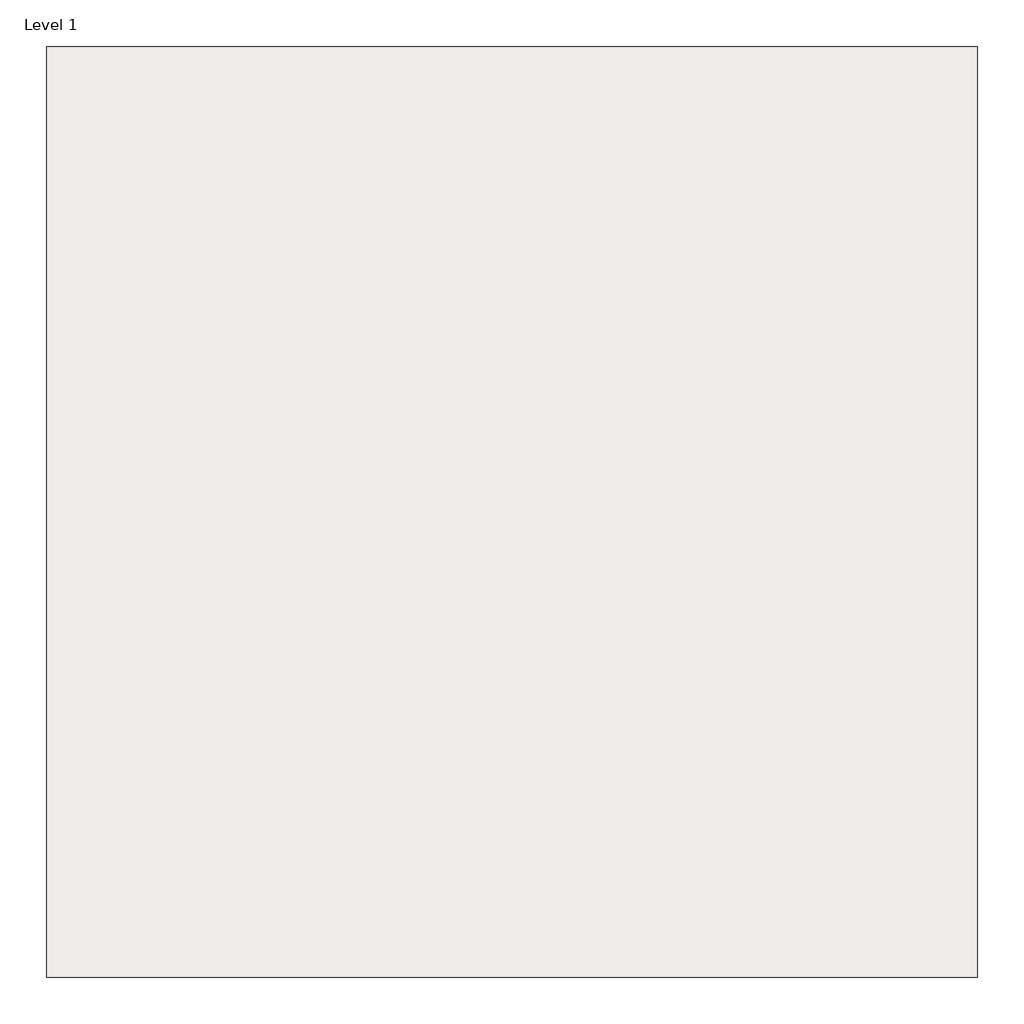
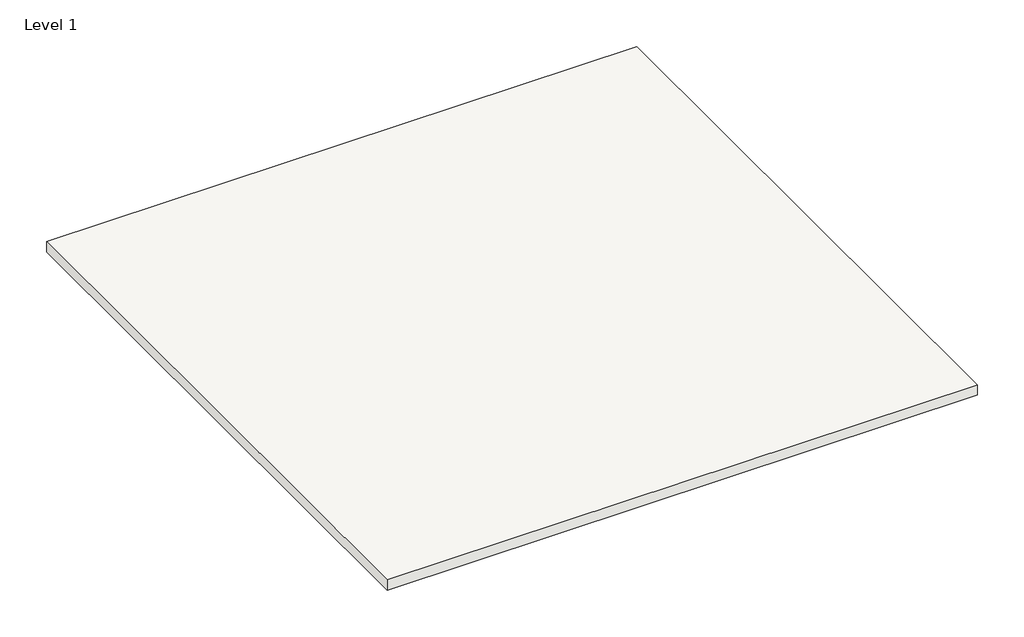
# One storey: 1 covering.
"""IFC4 building model written with IfcOpenShell, lengths in millimetres."""

import ifcopenshell
import ifcopenshell.guid

model = None  # the IFC model being written
_history = None  # IfcOwnerHistory: only IFC2X3 demands one
_inside = {}  # id of a spatial element -> (the spatial element, [elements in it])
_under = {}  # id of a project, library or spatial element -> (it, [spatial elements below it])
_declared = {}  # id of a project -> (the project, [libraries it declares])
_typed = {}  # id of a type object -> (the type object, [elements of that type])
_made_of = {}  # id of a material, layer set ... -> (it, [elements and type objects made of it])


def new_model(schema):
    """Start an empty IFC model of exactly this schema.

    Asked for "IFC4X3", IfcOpenShell would pick the latest addendum, in which some entities
    have other attributes; the version numbers below select the first issue.
    IFC2X3 requires an IfcOwnerHistory on every rooted entity: one is made here for all.
    """
    global model, _history
    if schema == "IFC4X3":
        model = ifcopenshell.file(schema_version=(4, 3, 0, 0))
    else:
        model = ifcopenshell.file(schema=schema)
    _inside.clear()
    _under.clear()
    _declared.clear()
    _typed.clear()
    _made_of.clear()
    _history = None
    if model.schema == "IFC2X3":
        org = make("IfcOrganization", Name="unknown")
        user = make(
            "IfcPersonAndOrganization",
            ThePerson=make("IfcPerson", FamilyName="unknown"),
            TheOrganization=org,
        )
        app = make(
            "IfcApplication",
            ApplicationDeveloper=org,
            Version="unknown",
            ApplicationFullName="unknown",
            ApplicationIdentifier="unknown",
        )
        _history = make(
            "IfcOwnerHistory",
            OwningUser=user,
            OwningApplication=app,
            ChangeAction="ADDED",
            CreationDate=0,
        )
    return model


def make(cls, **values):
    """One entity of the class cls with the attributes given. An attribute that is None is left unset."""
    return model.create_entity(
        cls, **{name: value for name, value in values.items() if value is not None}
    )


def rooted(cls, **values):
    """An entity with a GlobalId (a new one), such as an element, a storey or a relation."""
    return make(cls, GlobalId=ifcopenshell.guid.new(), OwnerHistory=_history, **values)


def si_unit(unit_type, name, prefix=None):
    """IfcSIUnit, for example si_unit("LENGTHUNIT", "METRE", prefix="MILLI")."""
    return make("IfcSIUnit", UnitType=unit_type, Prefix=prefix, Name=name)


def assignment(units):
    """IfcUnitAssignment: the units of a project."""
    return None if units is None else make("IfcUnitAssignment", Units=units)


def point(xyz):
    """IfcCartesianPoint."""
    return None if xyz is None else make("IfcCartesianPoint", Coordinates=xyz)


def direction(xyz):
    """IfcDirection."""
    return None if xyz is None else make("IfcDirection", DirectionRatios=xyz)


def frame(location, z_axis=None, x_axis=None):
    """IfcAxis2Placement3D, a coordinate frame: its origin and axes. An axis left out is left unset."""
    return make(
        "IfcAxis2Placement3D",
        Location=point(location),
        Axis=direction(z_axis),
        RefDirection=direction(x_axis),
    )


def origin():
    """The frame at (0, 0, 0) with its axes left unset."""
    return frame((0.0, 0.0, 0.0))


def origin_with_axes():
    """The frame at (0, 0, 0) with the z axis (0, 0, 1) and the x axis (1, 0, 0) written out."""
    return frame((0.0, 0.0, 0.0), z_axis=(0.0, 0.0, 1.0), x_axis=(1.0, 0.0, 0.0))


def place(relative_to, where):
    """IfcLocalPlacement: puts the frame where relative to a parent placement (None: the world)."""
    return make(
        "IfcLocalPlacement", PlacementRelTo=relative_to, RelativePlacement=where
    )


def context(
    kind, dimensions, precision=None, world=None, true_north=None, identifier=None
):
    """IfcGeometricRepresentationContext, for example the 3D "Model" context."""
    return make(
        "IfcGeometricRepresentationContext",
        ContextIdentifier=identifier,
        ContextType=kind,
        CoordinateSpaceDimension=dimensions,
        Precision=precision,
        WorldCoordinateSystem=world,
        TrueNorth=true_north,
    )


def project(units=None, contexts=None):
    """IfcProject with its units and contexts."""
    return rooted(
        "IfcProject",
        Name="project",
        RepresentationContexts=contexts,
        UnitsInContext=assignment(units),
    )


def spatial(cls, under=None, at=None, **own):
    """A site, building, storey or space (cls), placed at a placement, below another one or the project."""
    s = rooted(cls, ObjectPlacement=at, **own)
    if under is not None:
        _under.setdefault(under.id(), (under, []))[1].append(s)
    return s


def polyline(points):
    """IfcPolyline through the points."""
    return make("IfcPolyline", Points=[point(p) for p in points])


def outline(outer, holes=None, kind="AREA"):
    """IfcArbitraryClosedProfileDef: a profile drawn as a closed curve; with holes, ...WithVoids."""
    if holes is None:
        return make("IfcArbitraryClosedProfileDef", ProfileType=kind, OuterCurve=outer)
    return make(
        "IfcArbitraryProfileDefWithVoids",
        ProfileType=kind,
        OuterCurve=outer,
        InnerCurves=holes,
    )


def extrude(swept, where, along, depth):
    """IfcExtrudedAreaSolid: the profile swept, set in the frame where, extruded along a direction by depth."""
    return make(
        "IfcExtrudedAreaSolid",
        SweptArea=swept,
        Position=where,
        ExtrudedDirection=direction(along),
        Depth=depth,
    )


def shape(context_of_items, identifier, shape_type, items):
    """IfcShapeRepresentation: the items that make up one representation, for example the "Body"."""
    return make(
        "IfcShapeRepresentation",
        ContextOfItems=context_of_items,
        RepresentationIdentifier=identifier,
        RepresentationType=shape_type,
        Items=items,
    )


def made_of(thing, what):
    """Note that an element or type object is made of a material, layer set ...; save() writes the relation."""
    if what is not None:
        _made_of.setdefault(what.id(), (what, []))[1].append(thing)
    return thing


def element(
    cls,
    number,
    at=None,
    inside=None,
    cuts=None,
    type_object=None,
    material=None,
    context=None,
    identifier="Body",
    shape_type=None,
    held_by="IfcProductDefinitionShape",
    body=None,
    shapes=None,
    **own,
):
    """One element of the class cls, such as IfcWall. Its Tag is "e" and its number.

    at: its placement. inside: the storey or other place that contains it. cuts: it is an
    opening in that element (IfcRelVoidsElement). A single representation is given by context,
    identifier, shape_type and body (its items); several are given by shapes. held_by: the class
    of the entity that holds the representations. save() writes the other relations.
    """
    e = rooted(cls, Tag="e%d" % number, ObjectPlacement=at, **own)
    if body is not None:
        shapes = [shape(context, identifier, shape_type, body)]
    if shapes is not None:
        e.Representation = make(held_by, Representations=shapes)
    if inside is not None:
        _inside.setdefault(inside.id(), (inside, []))[1].append(e)
    if cuts is not None:
        rooted(
            "IfcRelVoidsElement", RelatingBuildingElement=cuts, RelatedOpeningElement=e
        )
    if type_object is not None:
        _typed.setdefault(type_object.id(), (type_object, []))[1].append(e)
    return made_of(e, material)


def aggregate(whole, parts):
    """IfcRelAggregates: a whole, such as a stair, and the parts it consists of."""
    return rooted("IfcRelAggregates", RelatingObject=whole, RelatedObjects=parts)


def save(model, path):
    """Write the relations noted so far, then the file.

    IfcRelAggregates (storeys below a building ...), IfcRelContainedInSpatialStructure (elements
    in a storey), IfcRelDefinesByType, IfcRelAssociatesMaterial and IfcRelDeclares: one each for
    every whole, place, type object, material and project.
    """
    for whole, parts in _under.values():
        aggregate(whole, parts)
    for where, things in _inside.values():
        rooted(
            "IfcRelContainedInSpatialStructure",
            RelatedElements=things,
            RelatingStructure=where,
        )
    for kind, things in _typed.values():
        rooted("IfcRelDefinesByType", RelatedObjects=things, RelatingType=kind)
    for what, things in _made_of.values():
        rooted("IfcRelAssociatesMaterial", RelatedObjects=things, RelatingMaterial=what)
    for by, libraries in _declared.values():
        rooted("IfcRelDeclares", RelatingContext=by, RelatedDefinitions=libraries)
    model.write(path)


model = new_model("IFC4")

# Units and contexts
model_context = context("Model", 3, world=origin())
ifc_project = project(units=[si_unit("LENGTHUNIT", "METRE", prefix="MILLI")], contexts=[model_context])

# Site, building, storey
site = spatial("IfcSite", under=ifc_project)
building = spatial("IfcBuilding", under=site)
storey = spatial("IfcBuildingStorey", under=building, Name="Level 1", Elevation=0.0)

# Covering
placement = place(None, origin())
element("IfcCovering", 1, ObjectType="RIGIPS - 4.05.22 - 30dB (750)", at=placement, inside=storey, context=model_context, shape_type="SweptSolid", body=[
    extrude(outline(polyline([(-1500.0, 1500.0), (1500.0, 1500.0), (1500.0, -1500.0), (-1500.0, -1500.0), (-1500.0, 1500.0)])), origin_with_axes(), (0.0, 0.0, 1.0), 55.0),
])

save(model, "model.ifc")
